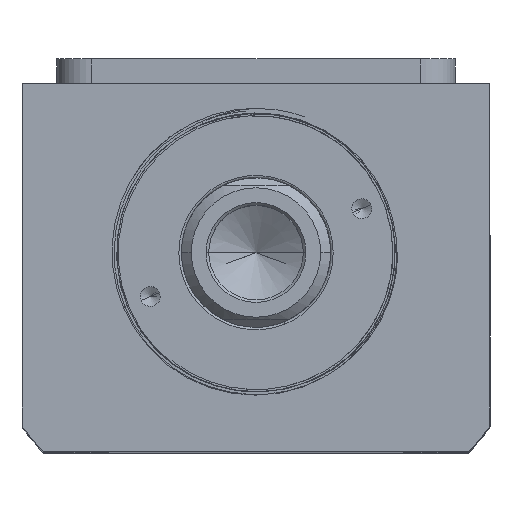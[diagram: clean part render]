
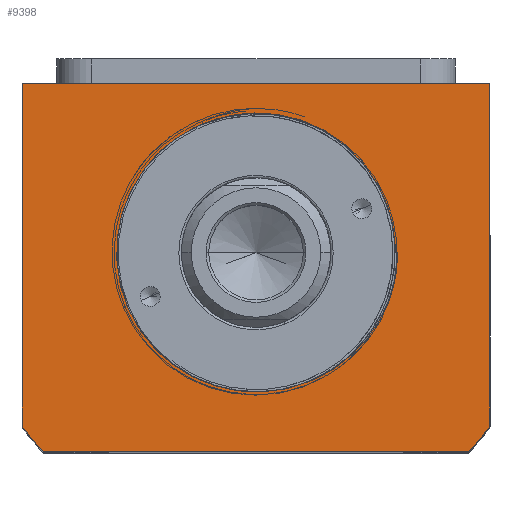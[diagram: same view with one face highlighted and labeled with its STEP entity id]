
A CAD part, top view. The second image highlights one B-rep face of the part: STEP entity #9398.
In plain terms, the highlighted planar face has unit normal (0, 0, 1).
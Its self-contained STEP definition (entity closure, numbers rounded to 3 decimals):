
#103 = CARTESIAN_POINT ( 'NONE',  ( 12.831, -24.945, 82.5 ) ) ;
#136 = CARTESIAN_POINT ( 'NONE',  ( 28., 0., 82.5 ) ) ;
#208 = CARTESIAN_POINT ( 'NONE',  ( 19.714, -20.129, 82.5 ) ) ;
#501 = EDGE_LOOP ( 'NONE', ( #6226, #2996, #5903 ) ) ;
#567 = EDGE_CURVE ( 'NONE', #5476, #8283, #9782, .T. ) ;
#963 = CARTESIAN_POINT ( 'NONE',  ( 18.129, -21.529, 82.5 ) ) ;
#1022 = CARTESIAN_POINT ( 'NONE',  ( 47., 34., 82.5 ) ) ;
#1222 = CIRCLE ( 'NONE', #3631, 58.5 ) ;
#1490 = VERTEX_POINT ( 'NONE', #136 ) ;
#1641 = DIRECTION ( 'NONE',  ( 0., 0., 1. ) ) ;
#1764 = VERTEX_POINT ( 'NONE', #8676 ) ;
#2403 = CARTESIAN_POINT ( 'NONE',  ( 42.688, -40., 82.5 ) ) ;
#2624 = EDGE_CURVE ( 'NONE', #1764, #5476, #11507, .T. ) ;
#2739 = CARTESIAN_POINT ( 'NONE',  ( 28.485, -0.71, 82.5 ) ) ;
#2780 = CARTESIAN_POINT ( 'NONE',  ( 28.233, -3.538, 82.5 ) ) ;
#2877 = VECTOR ( 'NONE', #3688, 1000. ) ;
#2953 = EDGE_CURVE ( 'NONE', #6316, #4108, #6018, .T. ) ;
#2989 = VECTOR ( 'NONE', #8746, 1000. ) ;
#2996 = ORIENTED_EDGE ( 'NONE', *, *, #2953, .T. ) ;
#3162 = ORIENTED_EDGE ( 'NONE', *, *, #6619, .T. ) ;
#3334 = CARTESIAN_POINT ( 'NONE',  ( 0., 0., 82.5 ) ) ;
#3409 = VECTOR ( 'NONE', #6319, 1000. ) ;
#3631 = AXIS2_PLACEMENT_3D ( 'NONE', #4259, #1641, #7022 ) ;
#3669 = CARTESIAN_POINT ( 'NONE',  ( 10.232, -26.064, 82.5 ) ) ;
#3684 = FACE_BOUND ( 'NONE', #501, .T. ) ;
#3688 = DIRECTION ( 'NONE',  ( -1., 0., 0. ) ) ;
#3753 = CARTESIAN_POINT ( 'NONE',  ( 27.555, -6.99, 82.5 ) ) ;
#4108 = VERTEX_POINT ( 'NONE', #11397 ) ;
#4160 = CARTESIAN_POINT ( 'NONE',  ( -42.688, -40., 82.5 ) ) ;
#4259 = CARTESIAN_POINT ( 'NONE',  ( 0., 0., 82.5 ) ) ;
#4357 = DIRECTION ( 'NONE',  ( 1., 0., 0. ) ) ;
#4505 = CARTESIAN_POINT ( 'NONE',  ( 22.571, -17.007, 82.5 ) ) ;
#4520 = DIRECTION ( 'NONE',  ( 0., -1., 0. ) ) ;
#4539 = FACE_OUTER_BOUND ( 'NONE', #4544, .T. ) ;
#4544 = EDGE_LOOP ( 'NONE', ( #6929, #9995, #6715, #3162, #10992, #7195 ) ) ;
#4613 = DIRECTION ( 'NONE',  ( 0., 0., 1. ) ) ;
#4625 = CARTESIAN_POINT ( 'NONE',  ( 26.163, -10.961, 82.5 ) ) ;
#5393 = LINE ( 'NONE', #2403, #2989 ) ;
#5412 = CARTESIAN_POINT ( 'NONE',  ( 20.224, -19.631, 82.5 ) ) ;
#5445 = CARTESIAN_POINT ( 'NONE',  ( 28.449, -1.419, 82.5 ) ) ;
#5476 = VERTEX_POINT ( 'NONE', #7136 ) ;
#5903 = ORIENTED_EDGE ( 'NONE', *, *, #10619, .T. ) ;
#6018 = B_SPLINE_CURVE_WITH_KNOTS ( 'NONE', 3,
 ( #8294, #2739, #5445, #9056, #2780, #7277, #3753, #8175, #4625, #6468, #10813, #4505, #9952, #5412, #208, #10067, #963, #10026, #6317, #6436, #103, #6351, #9102, #3669 ),
 .UNSPECIFIED., .F., .F.,
 ( 4, 2, 2, 2, 2, 2, 2, 2, 2, 2, 2, 4 ),
 ( 0., 0.002, 0.004, 0.009, 0.013, 0.017, 0.021, 0.023, 0.026, 0.03, 0.032, 0.034 ),
 .UNSPECIFIED. ) ;
#6112 = LINE ( 'NONE', #7160, #3409 ) ;
#6133 = VECTOR ( 'NONE', #4520, 1000. ) ;
#6226 = ORIENTED_EDGE ( 'NONE', *, *, #6837, .F. ) ;
#6316 = VERTEX_POINT ( 'NONE', #9244 ) ;
#6317 = CARTESIAN_POINT ( 'NONE',  ( 15.3, -23.593, 82.5 ) ) ;
#6319 = DIRECTION ( 'NONE',  ( -1., 0., 0. ) ) ;
#6351 = CARTESIAN_POINT ( 'NONE',  ( 11.542, -25.544, 82.5 ) ) ;
#6436 = CARTESIAN_POINT ( 'NONE',  ( 13.459, -24.624, 82.5 ) ) ;
#6468 = CARTESIAN_POINT ( 'NONE',  ( 24.898, -13.504, 82.5 ) ) ;
#6530 = VECTOR ( 'NONE', #9043, 1000. ) ;
#6548 = VERTEX_POINT ( 'NONE', #9498 ) ;
#6619 = EDGE_CURVE ( 'NONE', #8720, #1764, #5393, .T. ) ;
#6715 = ORIENTED_EDGE ( 'NONE', *, *, #10594, .T. ) ;
#6837 = EDGE_CURVE ( 'NONE', #6316, #1490, #6112, .T. ) ;
#6922 = CARTESIAN_POINT ( 'NONE',  ( 47., 34., 82.5 ) ) ;
#6929 = ORIENTED_EDGE ( 'NONE', *, *, #11016, .T. ) ;
#7022 = DIRECTION ( 'NONE',  ( 1., 0., 0. ) ) ;
#7136 = CARTESIAN_POINT ( 'NONE',  ( 47., -34.832, 82.5 ) ) ;
#7138 = VERTEX_POINT ( 'NONE', #8575 ) ;
#7160 = CARTESIAN_POINT ( 'NONE',  ( 0., 0., 82.5 ) ) ;
#7195 = ORIENTED_EDGE ( 'NONE', *, *, #567, .T. ) ;
#7255 = CARTESIAN_POINT ( 'NONE',  ( -47., 34., 82.5 ) ) ;
#7277 = CARTESIAN_POINT ( 'NONE',  ( 27.887, -5.628, 82.5 ) ) ;
#7767 = CARTESIAN_POINT ( 'NONE',  ( 0., 0., 82.5 ) ) ;
#7967 = LINE ( 'NONE', #7255, #2877 ) ;
#8175 = CARTESIAN_POINT ( 'NONE',  ( 26.694, -9.657, 82.5 ) ) ;
#8283 = VERTEX_POINT ( 'NONE', #6922 ) ;
#8294 = CARTESIAN_POINT ( 'NONE',  ( 28.495, 0., 82.5 ) ) ;
#8495 = AXIS2_PLACEMENT_3D ( 'NONE', #3334, #9728, #4357 ) ;
#8575 = CARTESIAN_POINT ( 'NONE',  ( -47., 34., 82.5 ) ) ;
#8676 = CARTESIAN_POINT ( 'NONE',  ( 42.688, -40., 82.5 ) ) ;
#8700 = AXIS2_PLACEMENT_3D ( 'NONE', #10011, #4613, #10910 ) ;
#8720 = VERTEX_POINT ( 'NONE', #4160 ) ;
#8722 = DIRECTION ( 'NONE',  ( 1., 0., 0. ) ) ;
#8746 = DIRECTION ( 'NONE',  ( 1., 0., 0. ) ) ;
#8835 = LINE ( 'NONE', #10979, #6133 ) ;
#9043 = DIRECTION ( 'NONE',  ( 0., 1., 0. ) ) ;
#9056 = CARTESIAN_POINT ( 'NONE',  ( 28.323, -2.832, 82.5 ) ) ;
#9102 = CARTESIAN_POINT ( 'NONE',  ( 10.89, -25.816, 82.5 ) ) ;
#9244 = CARTESIAN_POINT ( 'NONE',  ( 28.495, 0., 82.5 ) ) ;
#9398 = ADVANCED_FACE ( 'NONE', ( #3684, #4539 ), #9761, .T. ) ;
#9498 = CARTESIAN_POINT ( 'NONE',  ( -47., -34.832, 82.5 ) ) ;
#9728 = DIRECTION ( 'NONE',  ( 0., 0., 1. ) ) ;
#9761 = PLANE ( 'NONE',  #8495 ) ;
#9782 = LINE ( 'NONE', #1022, #6530 ) ;
#9952 = CARTESIAN_POINT ( 'NONE',  ( 21.684, -18.094, 82.5 ) ) ;
#9995 = ORIENTED_EDGE ( 'NONE', *, *, #10996, .T. ) ;
#10011 = CARTESIAN_POINT ( 'NONE',  ( 0., 0., 82.5 ) ) ;
#10026 = CARTESIAN_POINT ( 'NONE',  ( 16.467, -22.819, 82.5 ) ) ;
#10067 = CARTESIAN_POINT ( 'NONE',  ( 18.667, -21.077, 82.5 ) ) ;
#10285 = AXIS2_PLACEMENT_3D ( 'NONE', #7767, #11462, #8722 ) ;
#10594 = EDGE_CURVE ( 'NONE', #6548, #8720, #1222, .T. ) ;
#10619 = EDGE_CURVE ( 'NONE', #4108, #1490, #11207, .T. ) ;
#10813 = CARTESIAN_POINT ( 'NONE',  ( 24.178, -14.712, 82.5 ) ) ;
#10910 = DIRECTION ( 'NONE',  ( 1., 0., 0. ) ) ;
#10979 = CARTESIAN_POINT ( 'NONE',  ( -47., -34.832, 82.5 ) ) ;
#10992 = ORIENTED_EDGE ( 'NONE', *, *, #2624, .T. ) ;
#10996 = EDGE_CURVE ( 'NONE', #7138, #6548, #8835, .T. ) ;
#11016 = EDGE_CURVE ( 'NONE', #8283, #7138, #7967, .T. ) ;
#11207 = CIRCLE ( 'NONE', #10285, 28. ) ;
#11397 = CARTESIAN_POINT ( 'NONE',  ( 10.232, -26.064, 82.5 ) ) ;
#11462 = DIRECTION ( 'NONE',  ( 0., 0., -1. ) ) ;
#11507 = CIRCLE ( 'NONE', #8700, 58.5 ) ;
